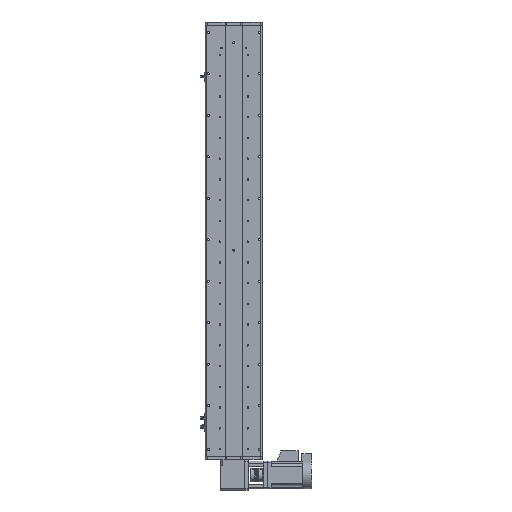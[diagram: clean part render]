
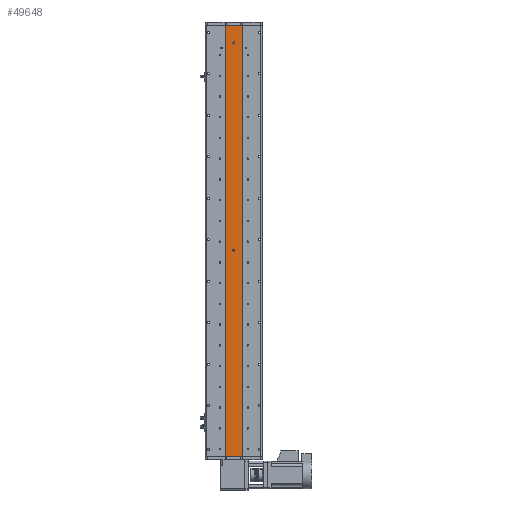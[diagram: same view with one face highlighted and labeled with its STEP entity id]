
A CAD part, front view. The second image highlights one B-rep face of the part: STEP entity #49648.
In plain terms, the highlighted planar face has unit normal (0, -1, 0).
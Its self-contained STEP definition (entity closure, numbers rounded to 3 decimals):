
#234 = CIRCLE ( 'NONE', #18416, 3. ) ;
#1176 = CIRCLE ( 'NONE', #33260, 3. ) ;
#1522 = VECTOR ( 'NONE', #15379, 1000. ) ;
#1933 = EDGE_LOOP ( 'NONE', ( #43189, #43848, #47356, #48550 ) ) ;
#3252 = CARTESIAN_POINT ( 'NONE',  ( 25., 1., -623.5 ) ) ;
#4140 = CARTESIAN_POINT ( 'NONE',  ( 0., 1., 573.5 ) ) ;
#5874 = DIRECTION ( 'NONE',  ( 0., 0., -1. ) ) ;
#5982 = CARTESIAN_POINT ( 'NONE',  ( 25., 1., 623.5 ) ) ;
#6172 = DIRECTION ( 'NONE',  ( 0., -1., 0. ) ) ;
#6410 = CARTESIAN_POINT ( 'NONE',  ( -25., 1., 623.5 ) ) ;
#7573 = EDGE_CURVE ( 'NONE', #39465, #16357, #12996, .T. ) ;
#7908 = EDGE_CURVE ( 'NONE', #19705, #16357, #9294, .T. ) ;
#8017 = DIRECTION ( 'NONE',  ( 0., 0., -1. ) ) ;
#9222 = FACE_OUTER_BOUND ( 'NONE', #1933, .T. ) ;
#9294 = LINE ( 'NONE', #36588, #29701 ) ;
#10491 = VERTEX_POINT ( 'NONE', #33484 ) ;
#11213 = LINE ( 'NONE', #6410, #30408 ) ;
#11342 = VERTEX_POINT ( 'NONE', #30390 ) ;
#12293 = AXIS2_PLACEMENT_3D ( 'NONE', #29166, #6172, #33024 ) ;
#12607 = VERTEX_POINT ( 'NONE', #14208 ) ;
#12996 = LINE ( 'NONE', #19143, #1522 ) ;
#14014 = VERTEX_POINT ( 'NONE', #20547 ) ;
#14078 = DIRECTION ( 'NONE',  ( 1., 0., 0. ) ) ;
#14208 = CARTESIAN_POINT ( 'NONE',  ( -25., 1., 623.5 ) ) ;
#14349 = VERTEX_POINT ( 'NONE', #41926 ) ;
#15379 = DIRECTION ( 'NONE',  ( 1., 0., 0. ) ) ;
#16357 = VERTEX_POINT ( 'NONE', #3252 ) ;
#17208 = AXIS2_PLACEMENT_3D ( 'NONE', #5982, #44321, #21416 ) ;
#18416 = AXIS2_PLACEMENT_3D ( 'NONE', #22467, #49217, #26335 ) ;
#18533 = CIRCLE ( 'NONE', #23330, 3. ) ;
#18611 = EDGE_CURVE ( 'NONE', #11342, #10491, #23456, .T. ) ;
#19143 = CARTESIAN_POINT ( 'NONE',  ( 25., 1., -623.5 ) ) ;
#19152 = LINE ( 'NONE', #37023, #40717 ) ;
#19705 = VERTEX_POINT ( 'NONE', #47877 ) ;
#20547 = CARTESIAN_POINT ( 'NONE',  ( 0., 1., 576.5 ) ) ;
#21416 = DIRECTION ( 'NONE',  ( 0., 0., 1. ) ) ;
#22467 = CARTESIAN_POINT ( 'NONE',  ( 0., 1., 573.5 ) ) ;
#22894 = DIRECTION ( 'NONE',  ( 0., -1., 0. ) ) ;
#23046 = ORIENTED_EDGE ( 'NONE', *, *, #18611, .F. ) ;
#23330 = AXIS2_PLACEMENT_3D ( 'NONE', #45810, #22894, #49644 ) ;
#23456 = CIRCLE ( 'NONE', #12293, 3. ) ;
#24829 = CARTESIAN_POINT ( 'NONE',  ( -25., 1., -623.5 ) ) ;
#25686 = DIRECTION ( 'NONE',  ( 0., 0., -1. ) ) ;
#26335 = DIRECTION ( 'NONE',  ( 0., 0., -1. ) ) ;
#28937 = ORIENTED_EDGE ( 'NONE', *, *, #38545, .F. ) ;
#29166 = CARTESIAN_POINT ( 'NONE',  ( 0., 1., -26.5 ) ) ;
#29628 = FACE_BOUND ( 'NONE', #42494, .T. ) ;
#29701 = VECTOR ( 'NONE', #5874, 1000. ) ;
#30390 = CARTESIAN_POINT ( 'NONE',  ( 0., 1., -29.5 ) ) ;
#30408 = VECTOR ( 'NONE', #25686, 1000. ) ;
#31030 = DIRECTION ( 'NONE',  ( 0., -1., 0. ) ) ;
#33024 = DIRECTION ( 'NONE',  ( 0., 0., -1. ) ) ;
#33260 = AXIS2_PLACEMENT_3D ( 'NONE', #4140, #31030, #8017 ) ;
#33484 = CARTESIAN_POINT ( 'NONE',  ( 0., 1., -23.5 ) ) ;
#33812 = ORIENTED_EDGE ( 'NONE', *, *, #38035, .F. ) ;
#36588 = CARTESIAN_POINT ( 'NONE',  ( 25., 1., 623.5 ) ) ;
#37023 = CARTESIAN_POINT ( 'NONE',  ( 25., 1., 623.5 ) ) ;
#38035 = EDGE_CURVE ( 'NONE', #14349, #14014, #1176, .T. ) ;
#38106 = ORIENTED_EDGE ( 'NONE', *, *, #49134, .F. ) ;
#38545 = EDGE_CURVE ( 'NONE', #10491, #11342, #18533, .T. ) ;
#38598 = FACE_BOUND ( 'NONE', #39044, .T. ) ;
#39044 = EDGE_LOOP ( 'NONE', ( #23046, #28937 ) ) ;
#39465 = VERTEX_POINT ( 'NONE', #24829 ) ;
#39797 = EDGE_CURVE ( 'NONE', #12607, #39465, #11213, .T. ) ;
#40482 = PLANE ( 'NONE',  #17208 ) ;
#40717 = VECTOR ( 'NONE', #14078, 1000. ) ;
#41926 = CARTESIAN_POINT ( 'NONE',  ( 0., 1., 570.5 ) ) ;
#42494 = EDGE_LOOP ( 'NONE', ( #33812, #38106 ) ) ;
#43189 = ORIENTED_EDGE ( 'NONE', *, *, #7573, .T. ) ;
#43848 = ORIENTED_EDGE ( 'NONE', *, *, #7908, .F. ) ;
#44321 = DIRECTION ( 'NONE',  ( 0., 1., 0. ) ) ;
#45810 = CARTESIAN_POINT ( 'NONE',  ( 0., 1., -26.5 ) ) ;
#46220 = EDGE_CURVE ( 'NONE', #12607, #19705, #19152, .T. ) ;
#47356 = ORIENTED_EDGE ( 'NONE', *, *, #46220, .F. ) ;
#47877 = CARTESIAN_POINT ( 'NONE',  ( 25., 1., 623.5 ) ) ;
#48550 = ORIENTED_EDGE ( 'NONE', *, *, #39797, .T. ) ;
#49134 = EDGE_CURVE ( 'NONE', #14014, #14349, #234, .T. ) ;
#49217 = DIRECTION ( 'NONE',  ( 0., -1., 0. ) ) ;
#49644 = DIRECTION ( 'NONE',  ( 0., 0., -1. ) ) ;
#49648 = ADVANCED_FACE ( 'NONE', ( #38598, #29628, #9222 ), #40482, .F. ) ;
